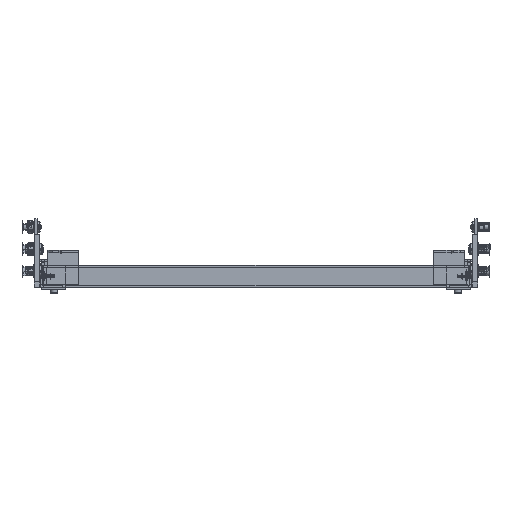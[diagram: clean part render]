
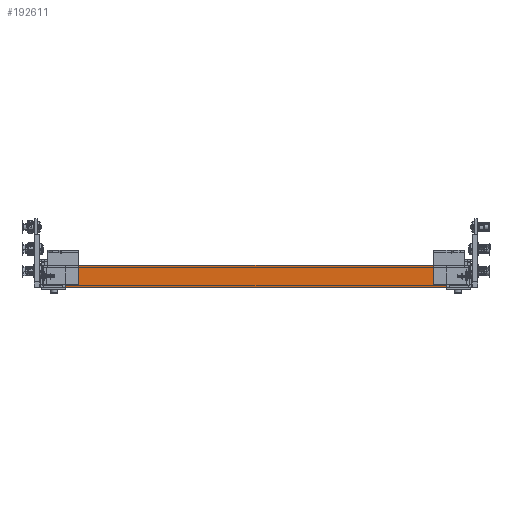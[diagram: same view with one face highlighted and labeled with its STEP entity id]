
A CAD part, front view. The second image highlights one B-rep face of the part: STEP entity #192611.
In plain terms, the highlighted planar face has unit normal (0, -1, 0) as drawn and (-1, 0, 0) by its records, which use the part's own axes.
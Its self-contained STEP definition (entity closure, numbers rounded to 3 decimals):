
#40 = LINE ( 'NONE', #128402, #194810 ) ;
#4987 = VERTEX_POINT ( 'NONE', #156620 ) ;
#6313 = EDGE_CURVE ( 'NONE', #4987, #100542, #47582, .T. ) ;
#7477 = ORIENTED_EDGE ( 'NONE', *, *, #141988, .T. ) ;
#12781 = EDGE_CURVE ( 'NONE', #157315, #105749, #132173, .T. ) ;
#20792 = CARTESIAN_POINT ( 'NONE',  ( -841.51, 214.5, 25. ) ) ;
#25057 = CARTESIAN_POINT ( 'NONE',  ( -841.51, 214.5, 2.5 ) ) ;
#25197 = VECTOR ( 'NONE', #68124, 1000. ) ;
#26617 = CARTESIAN_POINT ( 'NONE',  ( -841.51, -214.5, 2.5 ) ) ;
#26758 = VERTEX_POINT ( 'NONE', #189670 ) ;
#30650 = CARTESIAN_POINT ( 'NONE',  ( -841.51, 214.5, 25. ) ) ;
#31539 = VECTOR ( 'NONE', #208249, 1000. ) ;
#40988 = CARTESIAN_POINT ( 'NONE',  ( -841.51, -214.5, 2.5 ) ) ;
#43212 = FACE_OUTER_BOUND ( 'NONE', #77678, .T. ) ;
#47582 = LINE ( 'NONE', #86320, #25197 ) ;
#50731 = CARTESIAN_POINT ( 'NONE',  ( -841.51, -214.5, 0. ) ) ;
#50776 = EDGE_CURVE ( 'NONE', #136001, #208774, #152634, .T. ) ;
#56770 = DIRECTION ( 'NONE',  ( 0., 0., -1. ) ) ;
#64321 = CARTESIAN_POINT ( 'NONE',  ( -841.51, -214.5, 3.1 ) ) ;
#68124 = DIRECTION ( 'NONE',  ( 0., -1., 0. ) ) ;
#77678 = EDGE_LOOP ( 'NONE', ( #81290, #7477, #229654, #194481, #235565, #169234, #92689, #194599 ) ) ;
#78431 = CARTESIAN_POINT ( 'NONE',  ( -841.51, 214.5, 2.5 ) ) ;
#78701 = LINE ( 'NONE', #174340, #31539 ) ;
#79614 = LINE ( 'NONE', #78431, #92539 ) ;
#81258 = VECTOR ( 'NONE', #185518, 1000. ) ;
#81290 = ORIENTED_EDGE ( 'NONE', *, *, #50776, .T. ) ;
#86320 = CARTESIAN_POINT ( 'NONE',  ( -841.51, -240.5, 0. ) ) ;
#90883 = DIRECTION ( 'NONE',  ( 0., 0., -1. ) ) ;
#92539 = VECTOR ( 'NONE', #131750, 1000. ) ;
#92689 = ORIENTED_EDGE ( 'NONE', *, *, #6313, .T. ) ;
#94510 = EDGE_CURVE ( 'NONE', #26758, #157315, #79614, .T. ) ;
#98915 = DIRECTION ( 'NONE',  ( 1., 0., 0. ) ) ;
#100317 = AXIS2_PLACEMENT_3D ( 'NONE', #25057, #98915, #172819 ) ;
#100542 = VERTEX_POINT ( 'NONE', #50731 ) ;
#105749 = VERTEX_POINT ( 'NONE', #142453 ) ;
#112479 = EDGE_CURVE ( 'NONE', #113436, #4987, #78701, .T. ) ;
#113436 = VERTEX_POINT ( 'NONE', #199956 ) ;
#121593 = CARTESIAN_POINT ( 'NONE',  ( -841.51, -214.5, 21.9 ) ) ;
#128402 = CARTESIAN_POINT ( 'NONE',  ( -841.51, 214.5, 2.5 ) ) ;
#131750 = DIRECTION ( 'NONE',  ( 0., 0., 1. ) ) ;
#131841 = LINE ( 'NONE', #40988, #202066 ) ;
#132173 = LINE ( 'NONE', #20792, #81258 ) ;
#136001 = VERTEX_POINT ( 'NONE', #64321 ) ;
#136170 = EDGE_CURVE ( 'NONE', #26758, #113436, #40, .T. ) ;
#138592 = DIRECTION ( 'NONE',  ( 0., 0., 1. ) ) ;
#141988 = EDGE_CURVE ( 'NONE', #208774, #105749, #214815, .T. ) ;
#142453 = CARTESIAN_POINT ( 'NONE',  ( -841.51, -214.5, 25. ) ) ;
#152634 = LINE ( 'NONE', #26617, #206888 ) ;
#156620 = CARTESIAN_POINT ( 'NONE',  ( -841.51, 214.5, 0. ) ) ;
#157315 = VERTEX_POINT ( 'NONE', #30650 ) ;
#169009 = VECTOR ( 'NONE', #138592, 1000. ) ;
#169234 = ORIENTED_EDGE ( 'NONE', *, *, #112479, .T. ) ;
#172819 = DIRECTION ( 'NONE',  ( 0., 0., -1. ) ) ;
#173135 = EDGE_CURVE ( 'NONE', #136001, #100542, #131841, .T. ) ;
#174340 = CARTESIAN_POINT ( 'NONE',  ( -841.51, 214.5, 3.1 ) ) ;
#185518 = DIRECTION ( 'NONE',  ( 0., -1., 0. ) ) ;
#189670 = CARTESIAN_POINT ( 'NONE',  ( -841.51, 214.5, 21.9 ) ) ;
#190996 = PLANE ( 'NONE',  #100317 ) ;
#192611 = ADVANCED_FACE ( 'NONE', ( #43212 ), #190996, .F. ) ;
#194481 = ORIENTED_EDGE ( 'NONE', *, *, #94510, .F. ) ;
#194599 = ORIENTED_EDGE ( 'NONE', *, *, #173135, .F. ) ;
#194810 = VECTOR ( 'NONE', #90883, 1000. ) ;
#199956 = CARTESIAN_POINT ( 'NONE',  ( -841.51, 214.5, 3.1 ) ) ;
#202066 = VECTOR ( 'NONE', #56770, 1000. ) ;
#206888 = VECTOR ( 'NONE', #207114, 1000. ) ;
#207114 = DIRECTION ( 'NONE',  ( 0., 0., 1. ) ) ;
#208249 = DIRECTION ( 'NONE',  ( 0., 0., -1. ) ) ;
#208774 = VERTEX_POINT ( 'NONE', #215493 ) ;
#214815 = LINE ( 'NONE', #121593, #169009 ) ;
#215493 = CARTESIAN_POINT ( 'NONE',  ( -841.51, -214.5, 21.9 ) ) ;
#229654 = ORIENTED_EDGE ( 'NONE', *, *, #12781, .F. ) ;
#235565 = ORIENTED_EDGE ( 'NONE', *, *, #136170, .T. ) ;
